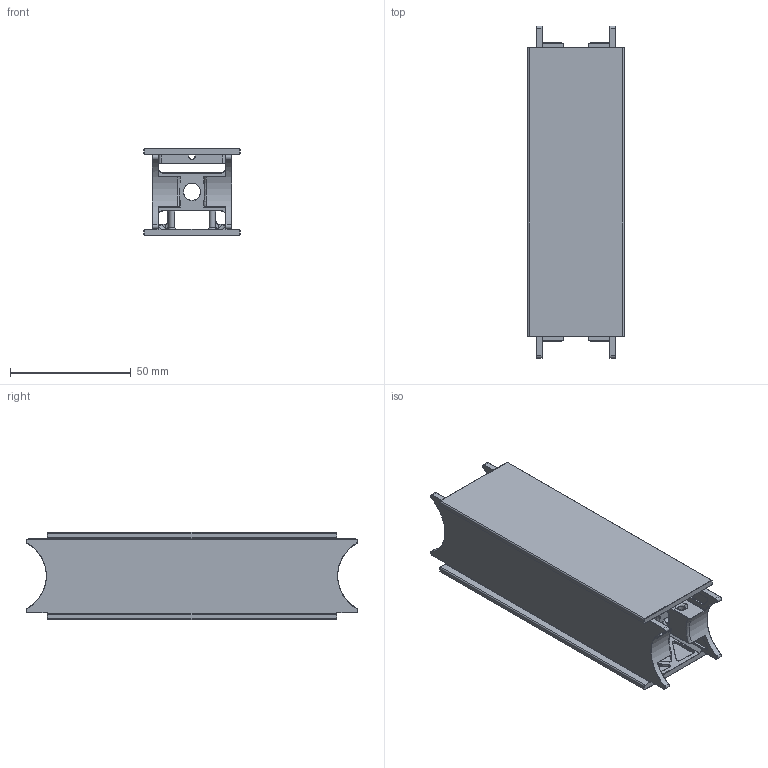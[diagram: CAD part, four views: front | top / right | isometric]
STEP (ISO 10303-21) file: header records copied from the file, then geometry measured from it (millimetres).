
FILE_DESCRIPTION (( 'STEP AP214' ), '1' );
FILE_NAME ('ACDISTSMFORXXXX.STEP', '2023-08-28T15:15:06', ( '' ), ( '' ), 'SwSTEP 2.0', 'SolidWorks 2023', '' );
FILE_SCHEMA (( 'AUTOMOTIVE_DESIGN' ));
Length unit declared in the file: millimetre
Products named in the file (4): WSCP2E0015-1400-05; WSCP2E0017-1400-01; ACDISTSMFORXXXX
Assembly tree (3 placements, depth 3):
  ACDISTSMFORXXXX
    WSCP2E0015-1400-05
      WSCP2E0015-1400-05
    WSCP2E0017-1400-01
Bounding box: 40 x 137.71 x 36.1 mm (x, y, z)
Volume: 45505.8 mm3; surface area: 44556 mm2
Topology: 2 solids, 2 shells, 2230 faces, 5173 edges, 2920 vertices
Faces by surface type: cylinder 973, bspline 922, plane 335
Entity records: 82875 total; most frequent: CARTESIAN_POINT 37068, ORIENTED_EDGE 10182, DIRECTION 9059, EDGE_CURVE 5091, AXIS2_PLACEMENT_3D 3630, VERTEX_POINT 2920, CIRCLE 2315, EDGE_LOOP 2311
